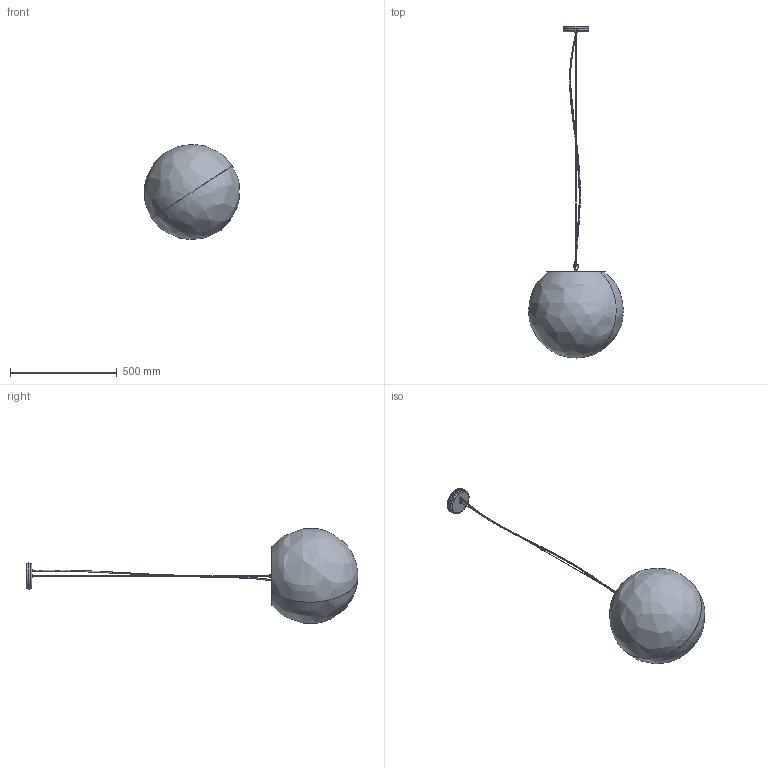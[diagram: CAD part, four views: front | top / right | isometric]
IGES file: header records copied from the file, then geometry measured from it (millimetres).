
Start section: SolidWorks IGES file using analytic representation for surfaces
Global section: file name: E:\3D lampy\Cumulus\Cumulus 450 zwis\Cumulus_9715.IGS; native system: SolidWorks 2016; preprocessor: SolidWorks 2016; author: Asia; date: 170623.110423; units: millimetre
Bounding box: 442.41 x 1558.39 x 445.86 mm (x, y, z)
Surface area: 1384229.4 mm2 (no closed solid volume)
Topology: 0 solids, 0 shells, 2101 faces, 20171 edges, 20156 vertices
Faces by surface type: bspline 1637, revolution 464
